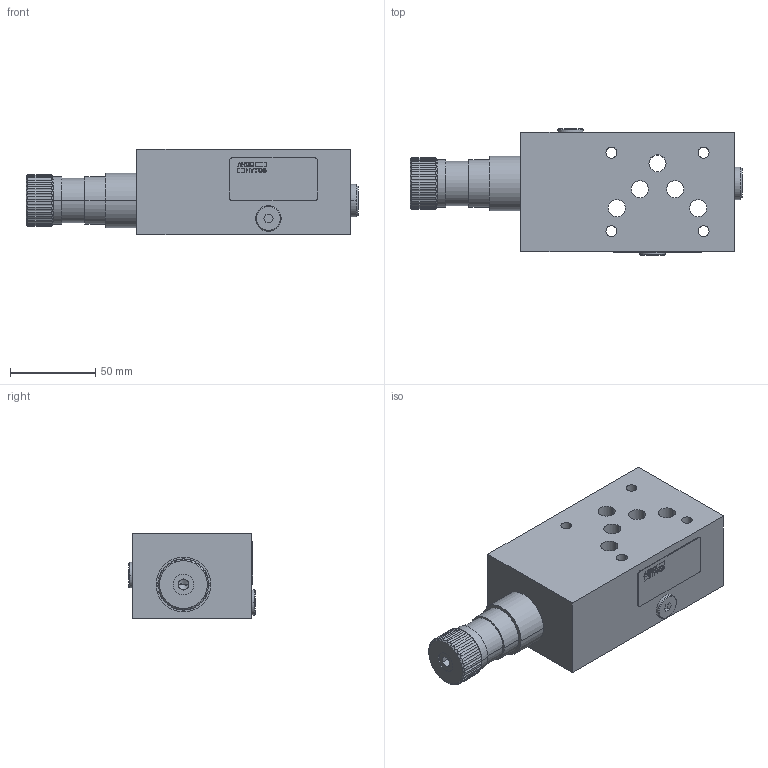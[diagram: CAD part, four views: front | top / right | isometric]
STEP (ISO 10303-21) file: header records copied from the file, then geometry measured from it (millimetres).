
FILE_DESCRIPTION((''),'2;1');
FILE_NAME('VRN2_10_MA','2011-03-15T',('paro'),(''),'PRO/ENGINEER BY PARAMETRIC TECHNOLOGY CORPORATION, 2010180','PRO/ENGINEER BY PARAMETRIC TECHNOLOGY CORPORATION, 2010180','');
FILE_SCHEMA(('CONFIG_CONTROL_DESIGN'));
Length unit declared in the file: millimetre
Products named in the file (1): VRN2_10_MA
Bounding box: 194.5 x 74 x 50 mm (x, y, z)
Volume: 456043.8 mm3; surface area: 55207.9 mm2
Topology: 1 solids, 1 shells, 454 faces, 1266 edges, 847 vertices
Faces by surface type: plane 332, cylinder 110, cone 12
Entity records: 15193 total; most frequent: CARTESIAN_POINT 3406, ORIENTED_EDGE 2524, DIRECTION 2280, EDGE_CURVE 1262, VECTOR 1006, LINE 1006, VERTEX_POINT 843, AXIS2_PLACEMENT_3D 637
